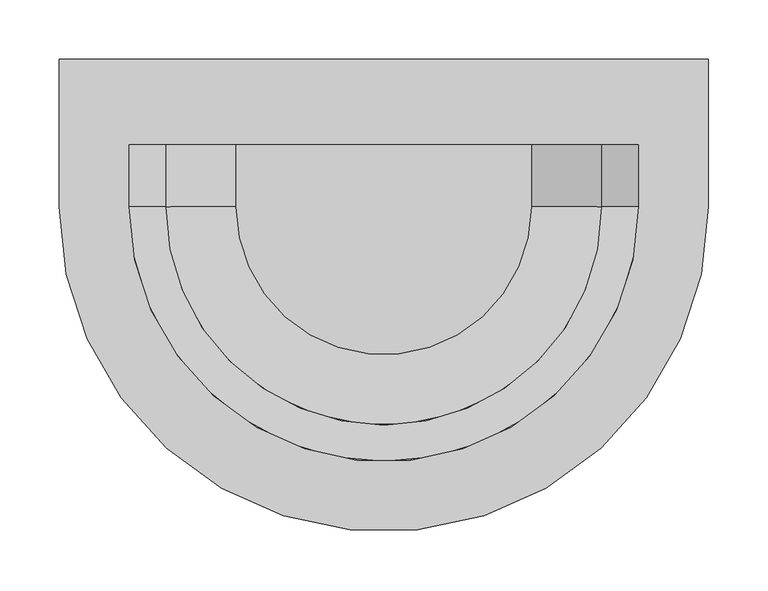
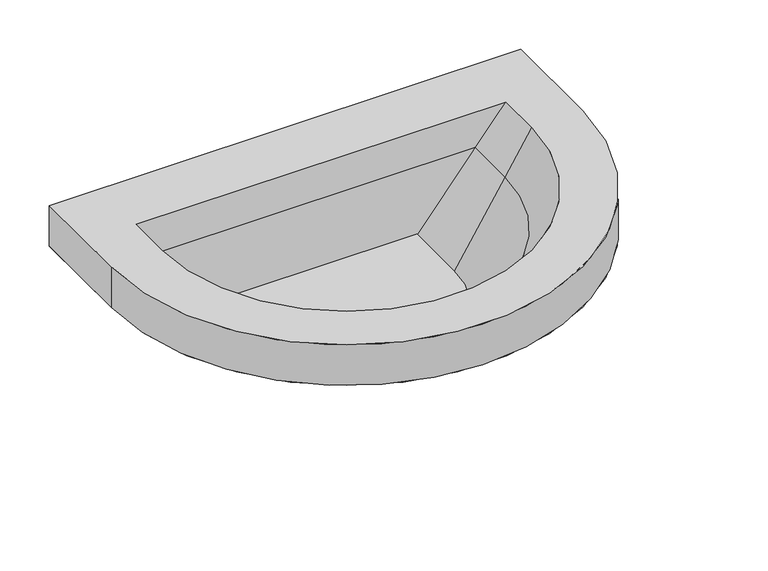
"""IFC4 building model written with IfcOpenShell, lengths in millimetres: flow terminal geometry, BHMS_wash basin-LOD01 : BHMS_wash basin-LOD01."""

from ifc_helpers import new_model, si_unit, point, frame, frame_2d, origin, origin_with_axes, place, context, project, spatial, polyline, circle_curve, trimmed, segment, composite_curve, outline, extrude, source, transform, mapped, element, save
from ifc_brep_helpers import plane_surface, cylinder_surface, revolved_surface, advanced_brep


def flow_terminal_1693ed64(model_context):
    return source(origin(), model_context, "Body", "SolidModel", [
        extrude(outline(composite_curve([segment(polyline([(405.6002344, 0.0), (405.6002344, -125.0)]), True, "CONTINUOUS"), segment(trimmed(circle_curve(frame_2d((280.6002344, -125.0)), 125.0), [point((405.6002344, -125.0))], [point((155.6002344, -125.0))], False, "CARTESIAN"), True, "CONTINUOUS"), segment(polyline([(155.6002344, -125.0), (155.6002344, 0.0), (405.6002344, 0.0)]), True, "CONTINUOUS")], self_intersect=False)), origin_with_axes(), (0.0, 0.0, 1.0), 2.0),
        advanced_brep(
        [(555.6002344, -125.0, 96.8074299), (5.6002344, -125.0, 96.8074299), (5.6002344, 0.0, 96.8074299), (555.6002344, 0.0, 96.8074299), (95.8288509, -125.0, 96.8074299), (465.3716179, -125.0, 96.8074299), (465.3716179, -64.9428459, 96.8074299), (95.8288509, -64.9428459, 96.8074299), (555.6002344, -125.0, 146.8074299), (555.6002344, 0.0, 146.8074299), (5.6002344, 0.0, 146.8074299), (5.6002344, -125.0, 146.8074299), (496.1055683, -125.0, 146.8074299), (65.0949006, -125.0, 146.8074299), (65.0949006, -72.6263335, 146.8074299), (496.1055683, -72.6263335, 146.8074299)],
        [
            (0, 1, circle_curve(frame((280.6002344, -125.0, 96.8074299), z_axis=(0.0, 0.0, -1.0), x_axis=(-1.0, 0.0, 0.0)), 275.0)),
            (1, 2),
            (2, 3),
            (3, 0),
            (4, 5, circle_curve(frame((280.6002344, -125.0, 96.8074299), z_axis=(0.0, 0.0, 1.0), x_axis=(-1.0, 0.0, 0.0)), 184.7713835)),
            (5, 6),
            (6, 7),
            (7, 4),
            (8, 9),
            (9, 10),
            (10, 11),
            (11, 8, circle_curve(frame((280.6002344, -125.0, 146.8074299), z_axis=(0.0, 0.0, 1.0), x_axis=(-1.0, 0.0, 0.0)), 275.0)),
            (12, 13, circle_curve(frame((280.6002344, -125.0, 146.8074299), z_axis=(0.0, 0.0, -1.0), x_axis=(-1.0, 0.0, 0.0)), 215.5053339)),
            (13, 14),
            (14, 15),
            (15, 12),
            (3, 9),
            (8, 0),
            (2, 10),
            (1, 11),
            (4, 13),
            (12, 5),
            (15, 6),
            (7, 14),
        ],
        [
            plane_surface(frame((555.6002344, 0.0, 96.8074299), z_axis=(0.0, 0.0, -1.0), x_axis=(0.0, -1.0, 0.0))),
            plane_surface(frame((555.6002344, 0.0, 146.8074299), z_axis=(0.0, 0.0, 1.0), x_axis=(0.0, 1.0, 0.0))),
            plane_surface(frame((555.6002344, -125.0, 146.8074299), z_axis=(1.0, 0.0, 0.0), x_axis=(0.0, 0.0, -1.0))),
            plane_surface(frame((555.6002344, 0.0, 146.8074299), z_axis=(0.0, 1.0, 0.0), x_axis=(0.0, 0.0, -1.0))),
            plane_surface(frame((5.6002344, 0.0, 146.8074299), z_axis=(-1.0, 0.0, 0.0), x_axis=(0.0, 0.0, -1.0))),
            cylinder_surface(frame((280.6002344, -125.0, 96.8074299), z_axis=(0.0, 0.0, 1.0), x_axis=(-1.0, 0.0, 0.0)), 275.0),
            revolved_surface(polyline([(65.09490060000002, -125.0, 146.80742989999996), (95.82885094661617, -125.0, 96.80742990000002)]), (280.6002344, -125.0, -203.7907382), (0.0, 0.0, 1.0)),
            plane_surface(frame((405.6002344, -87.5, -0.432565), z_axis=(-0.8519265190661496, 0.0, 0.5236613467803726), x_axis=(0.0, 1.0, 0.0))),
            plane_surface(frame((155.6002344, -87.5, -0.432565), z_axis=(0.8519265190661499, 0.0, 0.523661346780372), x_axis=(0.0, -1.0, 0.0))),
            plane_surface(frame((280.6002344, -50.0, -0.432565), z_axis=(0.0, -0.9883978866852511, -0.1518868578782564), x_axis=(-1.0, 0.0, 0.0))),
        ],
        [
            (0, [[1, 2, 3, 4], [5, 6, 7, 8]]),
            (1, [[9, 10, 11, 12], [13, 14, 15, 16]]),
            (2, [[-4, 17, -9, 18]]),
            (3, [[-3, 19, -10, -17]]),
            (4, [[-2, 20, -11, -19]]),
            (5, [[-1, -18, -12, -20]]),
            (6, [[21, -13, 22, -5]]),
            (7, [[-22, -16, 23, -6]]),
            (8, [[-21, -8, 24, -14]]),
            (9, [[-23, -15, -24, -7]]),
        ],
    ),
        advanced_brep(
        [(5.6002344, -125.0, 96.8074299), (555.6002344, -125.0, 96.8074299), (555.6002344, 0.0, 96.8074299), (5.6002344, 0.0, 96.8074299), (465.3716179, -125.0, 96.8074299), (95.8288509, -125.0, 96.8074299), (95.8288509, -64.9428459, 96.8074299), (465.3716179, -64.9428459, 96.8074299), (155.6002344, 0.0, -0.432565), (405.6002344, 0.0, -0.432565), (405.6002344, -50.0, -0.432565), (155.6002344, -50.0, -0.432565), (155.6002344, -125.0, -0.432565), (405.6002344, -125.0, -0.432565)],
        [
            (0, 1, circle_curve(frame((280.6002344, -125.0, 96.8074299), z_axis=(0.0, 0.0, 1.0), x_axis=(-1.0, 0.0, 0.0)), 275.0)),
            (1, 2),
            (2, 3),
            (3, 0),
            (4, 5, circle_curve(frame((280.6002344, -125.0, 96.8074299), z_axis=(0.0, 0.0, -1.0), x_axis=(-1.0, 0.0, 0.0)), 184.7713835)),
            (5, 6),
            (6, 7),
            (7, 4),
            (8, 9),
            (9, 10),
            (10, 11),
            (11, 8),
            (0, 12),
            (12, 13, circle_curve(frame((280.6002344, -125.0, -0.432565), z_axis=(0.0, 0.0, 1.0), x_axis=(-1.0, 0.0, 0.0)), 125.0)),
            (13, 1),
            (13, 10),
            (9, 2),
            (8, 3),
            (11, 12),
            (12, 5),
            (4, 13),
            (7, 10),
            (11, 6),
        ],
        [
            plane_surface(frame((280.6002344, -62.5, 96.8074299), z_axis=(0.0, 0.0, 1.0), x_axis=(-1.0, 0.0, 0.0))),
            plane_surface(frame((280.6002344, -62.5, -0.432565), z_axis=(0.0, 0.0, -1.0), x_axis=(-1.0, 0.0, 0.0))),
            revolved_surface(polyline([(405.60023441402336, -125.0, -0.43256499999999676), (555.6002344, -125.0, 96.8074299)]), (280.6002344, -125.0, -81.4658941), (0.0, 0.0, 1.0)),
            plane_surface(frame((405.6002344, -62.5, -0.432565), z_axis=(0.5439654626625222, 0.0, -0.8391076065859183), x_axis=(0.0, 1.0, 0.0))),
            plane_surface(frame((280.6002344, 0.0, -0.432565), z_axis=(0.0, 1.0, 0.0), x_axis=(-1.0, 0.0, 0.0))),
            plane_surface(frame((155.6002344, -62.5, -0.432565), z_axis=(-0.5439654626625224, 0.0, -0.8391076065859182), x_axis=(0.0, -1.0, 0.0))),
            revolved_surface(polyline([(95.82885090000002, -125.0, 96.80742990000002), (155.60023441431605, -125.0, -0.43256500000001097)]), (280.6002344, -125.0, -203.7907382), (0.0, 0.0, 1.0)),
            plane_surface(frame((405.6002344, -87.5, -0.432565), z_axis=(-0.8519265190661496, 0.0, 0.5236613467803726), x_axis=(0.0, 1.0, 0.0))),
            plane_surface(frame((155.6002344, -87.5, -0.432565), z_axis=(0.8519265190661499, 0.0, 0.523661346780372), x_axis=(0.0, -1.0, 0.0))),
            plane_surface(frame((280.6002344, -50.0, -0.432565), z_axis=(0.0, -0.9883978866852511, -0.1518868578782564), x_axis=(-1.0, 0.0, 0.0))),
        ],
        [
            (0, [[1, 2, 3, 4], [5, 6, 7, 8]]),
            (1, [[9, 10, 11, 12]]),
            (2, [[-1, 13, 14, 15]]),
            (3, [[-2, -15, 16, -10, 17]]),
            (4, [[-3, -17, -9, 18]]),
            (5, [[-4, -18, -12, 19, -13]]),
            (6, [[20, -5, 21, -14]]),
            (7, [[-21, -8, 22, -16]]),
            (8, [[-20, -19, 23, -6]]),
            (9, [[-22, -7, -23, -11]]),
        ],
    ),
    ])


if __name__ == "__main__":
    model = new_model("IFC4")
    model_context = context("Model", 3, world=origin())
    ifc_project = project(units=[si_unit("LENGTHUNIT", "METRE", prefix="MILLI")], contexts=[model_context])
    site = spatial("IfcSite", under=ifc_project)
    building = spatial("IfcBuilding", under=site)
    placement = place(None, origin())
    flow_terminal_shape = flow_terminal_1693ed64(model_context)
    element("IfcFlowTerminal", 1, ObjectType="BHMS_wash basin-LOD01 : BHMS_wash basin-LOD01", at=placement, inside=building, context=model_context, shape_type="MappedRepresentation", body=[
        mapped(flow_terminal_shape, transform((0.0, 0.0, 0.0), x_axis=(1.0, 0.0, 0.0), y_axis=(0.0, 1.0, 0.0), z_axis=(0.0, 0.0, 1.0))),
    ])
    save(model, "model.ifc")
